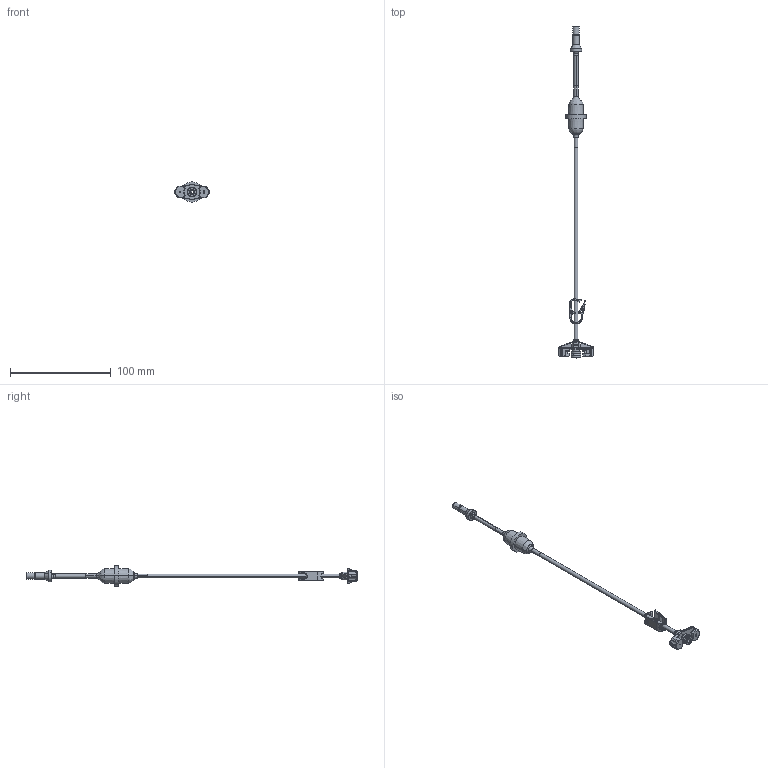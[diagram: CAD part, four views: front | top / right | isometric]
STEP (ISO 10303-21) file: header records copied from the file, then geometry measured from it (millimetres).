
FILE_DESCRIPTION (( 'STEP AP214' ), '1' );
FILE_NAME ('8001050_CUS.STEP', '2022-07-07T14:03:15', ( '' ), ( '' ), 'SwSTEP 2.0', 'SolidWorks 2020', '' );
FILE_SCHEMA (( 'AUTOMOTIVE_DESIGN' ));
Length unit declared in the file: millimetre
Products named in the file (1): 8001050_CUS
Bounding box: 34 x 328.8 x 19.94 mm (x, y, z)
Surface area: 10039.3 mm2 (no closed solid volume)
Topology: 0 solids, 22 shells, 430 faces, 1585 edges, 1094 vertices
Faces by surface type: cylinder 177, plane 98, torus 87, bspline 49, cone 19
Entity records: 24921 total; most frequent: CARTESIAN_POINT 7697, DIRECTION 2584, ORIENTED_EDGE 2337, EDGE_CURVE 1577, VERTEX_POINT 1094, AXIS2_PLACEMENT_3D 962, VECTOR 660, LINE 660
